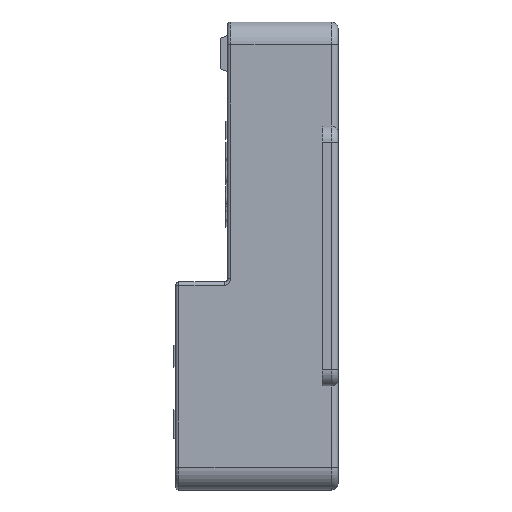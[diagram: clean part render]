
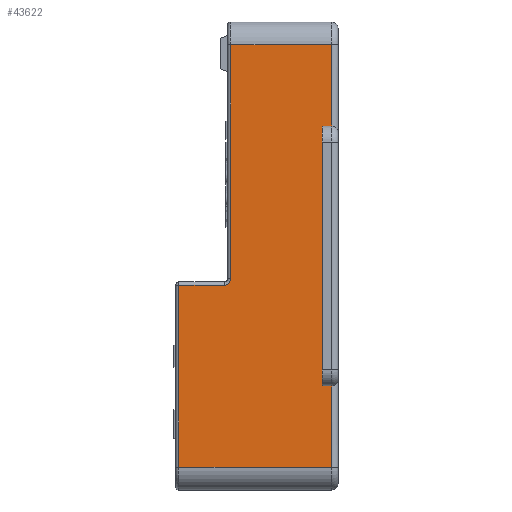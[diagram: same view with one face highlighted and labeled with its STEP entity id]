
A CAD part, left-side view. The second image highlights one B-rep face of the part: STEP entity #43622.
In plain terms, the highlighted planar face has unit normal (-1, 0, 0).
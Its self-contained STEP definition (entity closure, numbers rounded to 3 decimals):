
#2107=CIRCLE('',#46345,1.);
#3432=FACE_OUTER_BOUND('',#6008,.T.);
#6008=EDGE_LOOP('',(#30288,#30289,#30290,#30291,#30292,#30293,#30294,#30295,
#30296,#30297,#30298));
#8891=LINE('',#62217,#13625);
#8899=LINE('',#62272,#13633);
#8900=LINE('',#62303,#13634);
#8904=LINE('',#62313,#13638);
#8905=LINE('',#62315,#13639);
#8906=LINE('',#62319,#13640);
#8907=LINE('',#62321,#13641);
#8908=LINE('',#62322,#13642);
#8909=LINE('',#62324,#13643);
#8910=LINE('',#62325,#13644);
#13625=VECTOR('',#50003,12.5);
#13633=VECTOR('',#50079,12.5);
#13634=VECTOR('',#50120,1.4);
#13638=VECTOR('',#50130,15.5);
#13639=VECTOR('',#50131,36.);
#13640=VECTOR('',#50134,7.);
#13641=VECTOR('',#50135,28.);
#13642=VECTOR('',#50136,23.5);
#13643=VECTOR('',#50137,40.);
#13644=VECTOR('',#50138,1.4);
#18382=VERTEX_POINT('',#62196);
#18386=VERTEX_POINT('',#62212);
#18387=VERTEX_POINT('',#62216);
#18400=VERTEX_POINT('',#62268);
#18410=VERTEX_POINT('',#62302);
#18413=VERTEX_POINT('',#62312);
#18414=VERTEX_POINT('',#62314);
#18415=VERTEX_POINT('',#62316);
#18416=VERTEX_POINT('',#62318);
#18417=VERTEX_POINT('',#62320);
#18418=VERTEX_POINT('',#62323);
#22959=EDGE_CURVE('',#18386,#18387,#8891,.T.);
#22987=EDGE_CURVE('',#18400,#18382,#8899,.T.);
#22997=EDGE_CURVE('',#18410,#18382,#8900,.T.);
#23002=EDGE_CURVE('',#18387,#18413,#8904,.T.);
#23003=EDGE_CURVE('',#18413,#18414,#8905,.T.);
#23004=EDGE_CURVE('',#18415,#18414,#2107,.T.);
#23005=EDGE_CURVE('',#18415,#18416,#8906,.T.);
#23006=EDGE_CURVE('',#18416,#18417,#8907,.T.);
#23007=EDGE_CURVE('',#18417,#18400,#8908,.T.);
#23008=EDGE_CURVE('',#18418,#18410,#8909,.T.);
#23009=EDGE_CURVE('',#18386,#18418,#8910,.T.);
#30288=ORIENTED_EDGE('',*,*,#23002,.T.);
#30289=ORIENTED_EDGE('',*,*,#23003,.T.);
#30290=ORIENTED_EDGE('',*,*,#23004,.F.);
#30291=ORIENTED_EDGE('',*,*,#23005,.T.);
#30292=ORIENTED_EDGE('',*,*,#23006,.T.);
#30293=ORIENTED_EDGE('',*,*,#23007,.T.);
#30294=ORIENTED_EDGE('',*,*,#22987,.T.);
#30295=ORIENTED_EDGE('',*,*,#22997,.F.);
#30296=ORIENTED_EDGE('',*,*,#23008,.F.);
#30297=ORIENTED_EDGE('',*,*,#23009,.F.);
#30298=ORIENTED_EDGE('',*,*,#22959,.T.);
#41837=PLANE('',#46344);
#43622=ADVANCED_FACE('',(#3432),#41837,.F.);
#46344=AXIS2_PLACEMENT_3D('',#62311,#50128,#50129);
#46345=AXIS2_PLACEMENT_3D('',#62317,#50132,#50133);
#50003=DIRECTION('',(0.,0.,1.));
#50079=DIRECTION('',(0.,0.,1.));
#50120=DIRECTION('',(0.,-1.,0.));
#50128=DIRECTION('center_axis',(1.,0.,0.));
#50129=DIRECTION('ref_axis',(0.,0.,-1.));
#50130=DIRECTION('',(0.,1.,0.));
#50131=DIRECTION('',(0.,0.,-1.));
#50132=DIRECTION('center_axis',(-1.,0.,0.));
#50133=DIRECTION('ref_axis',(0.,0.,-1.));
#50134=DIRECTION('',(0.,1.,0.));
#50135=DIRECTION('',(0.,0.,-1.));
#50136=DIRECTION('',(0.,-1.,0.));
#50137=DIRECTION('',(0.,0.,-1.));
#50138=DIRECTION('',(0.,1.,0.));
#62196=CARTESIAN_POINT('',(-43.032,-9.476,-17.751));
#62212=CARTESIAN_POINT('',(-43.032,-9.476,22.249));
#62216=CARTESIAN_POINT('',(-43.032,-9.476,34.749));
#62217=CARTESIAN_POINT('',(-43.032,-9.476,22.249));
#62268=CARTESIAN_POINT('',(-43.032,-9.476,-30.251));
#62272=CARTESIAN_POINT('',(-43.032,-9.476,-30.251));
#62302=CARTESIAN_POINT('',(-43.032,-8.076,-17.751));
#62303=CARTESIAN_POINT('',(-43.032,-8.076,-17.751));
#62311=CARTESIAN_POINT('Origin',(-43.032,14.524,34.749));
#62312=CARTESIAN_POINT('',(-43.032,6.024,34.749));
#62313=CARTESIAN_POINT('',(-43.032,-9.476,34.749));
#62314=CARTESIAN_POINT('',(-43.032,6.024,-1.251));
#62315=CARTESIAN_POINT('',(-43.032,6.024,34.749));
#62316=CARTESIAN_POINT('',(-43.032,7.024,-2.251));
#62317=CARTESIAN_POINT('Origin',(-43.032,7.024,-1.251));
#62318=CARTESIAN_POINT('',(-43.032,14.024,-2.251));
#62319=CARTESIAN_POINT('',(-43.032,7.024,-2.251));
#62320=CARTESIAN_POINT('',(-43.032,14.024,-30.251));
#62321=CARTESIAN_POINT('',(-43.032,14.024,-2.251));
#62322=CARTESIAN_POINT('',(-43.032,14.024,-30.251));
#62323=CARTESIAN_POINT('',(-43.032,-8.076,22.249));
#62324=CARTESIAN_POINT('',(-43.032,-8.076,22.249));
#62325=CARTESIAN_POINT('',(-43.032,-9.476,22.249));
